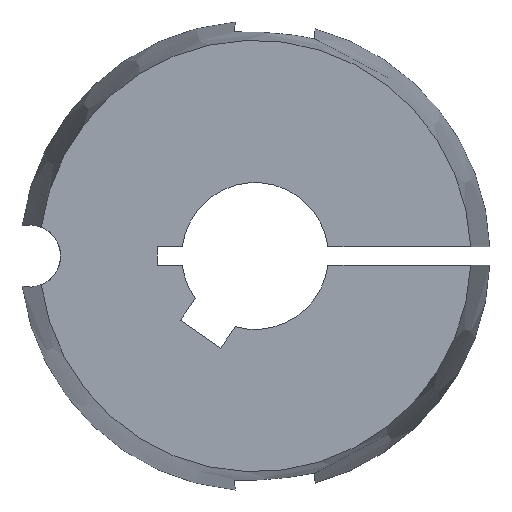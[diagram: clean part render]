
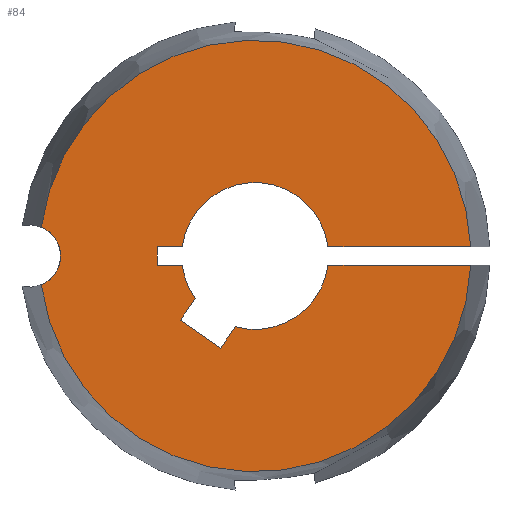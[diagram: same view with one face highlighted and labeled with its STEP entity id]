
A CAD part, left-side view. The second image highlights one B-rep face of the part: STEP entity #84.
In plain terms, the highlighted planar face has unit normal (-1, 0, 0).
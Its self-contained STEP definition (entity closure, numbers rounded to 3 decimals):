
#84 = ADVANCED_FACE( '', ( #114 ), #115, .F. );
#114 = FACE_OUTER_BOUND( '', #154, .T. );
#115 = PLANE( '', #155 );
#154 = EDGE_LOOP( '', ( #251, #252, #253, #254, #255, #256, #257, #258, #259, #260, #261, #262, #263, #264 ) );
#155 = AXIS2_PLACEMENT_3D( '', #265, #266, #267 );
#251 = ORIENTED_EDGE( '', *, *, #349, .T. );
#252 = ORIENTED_EDGE( '', *, *, #381, .F. );
#253 = ORIENTED_EDGE( '', *, *, #352, .T. );
#254 = ORIENTED_EDGE( '', *, *, #365, .T. );
#255 = ORIENTED_EDGE( '', *, *, #363, .T. );
#256 = ORIENTED_EDGE( '', *, *, #360, .T. );
#257 = ORIENTED_EDGE( '', *, *, #369, .T. );
#258 = ORIENTED_EDGE( '', *, *, #382, .T. );
#259 = ORIENTED_EDGE( '', *, *, #383, .T. );
#260 = ORIENTED_EDGE( '', *, *, #384, .T. );
#261 = ORIENTED_EDGE( '', *, *, #385, .T. );
#262 = ORIENTED_EDGE( '', *, *, #386, .T. );
#263 = ORIENTED_EDGE( '', *, *, #354, .T. );
#264 = ORIENTED_EDGE( '', *, *, #387, .F. );
#265 = CARTESIAN_POINT( '', ( -22.3, 0., 0. ) );
#266 = DIRECTION( '', ( 1., 0., 0. ) );
#267 = DIRECTION( '', ( 0., 0., -1. ) );
#349 = EDGE_CURVE( '', #402, #407, #409, .T. );
#352 = EDGE_CURVE( '', #415, #413, #416, .T. );
#354 = EDGE_CURVE( '', #418, #419, #420, .T. );
#360 = EDGE_CURVE( '', #431, #429, #432, .T. );
#363 = EDGE_CURVE( '', #436, #431, #437, .T. );
#365 = EDGE_CURVE( '', #413, #436, #439, .T. );
#369 = EDGE_CURVE( '', #429, #443, #445, .T. );
#381 = EDGE_CURVE( '', #415, #407, #465, .T. );
#382 = EDGE_CURVE( '', #443, #466, #467, .T. );
#383 = EDGE_CURVE( '', #466, #468, #469, .T. );
#384 = EDGE_CURVE( '', #468, #470, #471, .T. );
#385 = EDGE_CURVE( '', #470, #472, #473, .T. );
#386 = EDGE_CURVE( '', #472, #418, #474, .T. );
#387 = EDGE_CURVE( '', #402, #419, #475, .T. );
#402 = VERTEX_POINT( '', #513 );
#407 = VERTEX_POINT( '', #523 );
#409 = CIRCLE( '', #530, 2.55 );
#413 = VERTEX_POINT( '', #535 );
#415 = VERTEX_POINT( '', #538 );
#416 = LINE( '', #539, #540 );
#418 = VERTEX_POINT( '', #548 );
#419 = VERTEX_POINT( '', #549 );
#420 = LINE( '', #550, #551 );
#429 = VERTEX_POINT( '', #569 );
#431 = VERTEX_POINT( '', #572 );
#432 = LINE( '', #573, #574 );
#436 = VERTEX_POINT( '', #580 );
#437 = LINE( '', #581, #582 );
#439 = CIRCLE( '', #585, 6. );
#443 = VERTEX_POINT( '', #590 );
#445 = LINE( '', #593, #594 );
#465 = CIRCLE( '', #617, 17.641 );
#466 = VERTEX_POINT( '', #618 );
#467 = CIRCLE( '', #619, 6. );
#468 = VERTEX_POINT( '', #620 );
#469 = LINE( '', #621, #622 );
#470 = VERTEX_POINT( '', #623 );
#471 = LINE( '', #624, #625 );
#472 = VERTEX_POINT( '', #626 );
#473 = LINE( '', #627, #628 );
#474 = CIRCLE( '', #629, 6. );
#475 = CIRCLE( '', #630, 17.641 );
#513 = CARTESIAN_POINT( '', ( -22.3, 17.483, 2.355 ) );
#523 = CARTESIAN_POINT( '', ( -22.3, 17.483, -2.355 ) );
#530 = AXIS2_PLACEMENT_3D( '', #686, #687, #688 );
#535 = CARTESIAN_POINT( '', ( -22.3, -5.953, -0.75 ) );
#538 = CARTESIAN_POINT( '', ( -22.3, -17.625, -0.75 ) );
#539 = CARTESIAN_POINT( '', ( -22.3, -19.2, -0.75 ) );
#540 = VECTOR( '', #691, 1000. );
#548 = CARTESIAN_POINT( '', ( -22.3, -5.953, 0.75 ) );
#549 = CARTESIAN_POINT( '', ( -22.3, -17.625, 0.75 ) );
#550 = CARTESIAN_POINT( '', ( -22.3, 0., 0.75 ) );
#551 = VECTOR( '', #692, 1000. );
#569 = CARTESIAN_POINT( '', ( -22.3, 6.112, -5.242 ) );
#572 = CARTESIAN_POINT( '', ( -22.3, 2.836, -7.537 ) );
#573 = CARTESIAN_POINT( '', ( -22.3, 2.836, -7.537 ) );
#574 = VECTOR( '', #697, 1000. );
#580 = CARTESIAN_POINT( '', ( -22.3, 1.606, -5.781 ) );
#581 = CARTESIAN_POINT( '', ( -22.3, 1.606, -5.781 ) );
#582 = VECTOR( '', #700, 1000. );
#585 = AXIS2_PLACEMENT_3D( '', #702, #703, #704 );
#590 = CARTESIAN_POINT( '', ( -22.3, 4.883, -3.487 ) );
#593 = CARTESIAN_POINT( '', ( -22.3, 6.112, -5.242 ) );
#594 = VECTOR( '', #710, 1000. );
#617 = AXIS2_PLACEMENT_3D( '', #738, #739, #740 );
#618 = CARTESIAN_POINT( '', ( -22.3, 5.953, -0.75 ) );
#619 = AXIS2_PLACEMENT_3D( '', #741, #742, #743 );
#620 = CARTESIAN_POINT( '', ( -22.3, 8., -0.75 ) );
#621 = CARTESIAN_POINT( '', ( -22.3, 0., -0.75 ) );
#622 = VECTOR( '', #744, 1000. );
#623 = CARTESIAN_POINT( '', ( -22.3, 8., 0.75 ) );
#624 = CARTESIAN_POINT( '', ( -22.3, 8., -0.75 ) );
#625 = VECTOR( '', #745, 1000. );
#626 = CARTESIAN_POINT( '', ( -22.3, 5.953, 0.75 ) );
#627 = CARTESIAN_POINT( '', ( -22.3, 8., 0.75 ) );
#628 = VECTOR( '', #746, 1000. );
#629 = AXIS2_PLACEMENT_3D( '', #747, #748, #749 );
#630 = AXIS2_PLACEMENT_3D( '', #750, #751, #752 );
#686 = CARTESIAN_POINT( '', ( -22.3, 18.46, 0. ) );
#687 = DIRECTION( '', ( 1., 0., 0. ) );
#688 = DIRECTION( '', ( 0., 1., 0. ) );
#691 = DIRECTION( '', ( 0., 1., 0. ) );
#692 = DIRECTION( '', ( 0., -1., 0. ) );
#697 = DIRECTION( '', ( 0., 0.819, 0.574 ) );
#700 = DIRECTION( '', ( 0., 0.574, -0.819 ) );
#702 = CARTESIAN_POINT( '', ( -22.3, 0., 0. ) );
#703 = DIRECTION( '', ( 1., 0., 0. ) );
#704 = DIRECTION( '', ( 0., 0., -1. ) );
#710 = DIRECTION( '', ( 0., -0.574, 0.819 ) );
#738 = CARTESIAN_POINT( '', ( -22.3, 0., 0. ) );
#739 = DIRECTION( '', ( 1., 0., 0. ) );
#740 = DIRECTION( '', ( 0., 0., -1. ) );
#741 = CARTESIAN_POINT( '', ( -22.3, 0., 0. ) );
#742 = DIRECTION( '', ( 1., 0., 0. ) );
#743 = DIRECTION( '', ( 0., 0., -1. ) );
#744 = DIRECTION( '', ( 0., 1., 0. ) );
#745 = DIRECTION( '', ( 0., 0., 1. ) );
#746 = DIRECTION( '', ( 0., -1., 0. ) );
#747 = CARTESIAN_POINT( '', ( -22.3, 0., 0. ) );
#748 = DIRECTION( '', ( 1., 0., 0. ) );
#749 = DIRECTION( '', ( 0., 0., -1. ) );
#750 = CARTESIAN_POINT( '', ( -22.3, 0., 0. ) );
#751 = DIRECTION( '', ( 1., 0., 0. ) );
#752 = DIRECTION( '', ( 0., 0., -1. ) );
